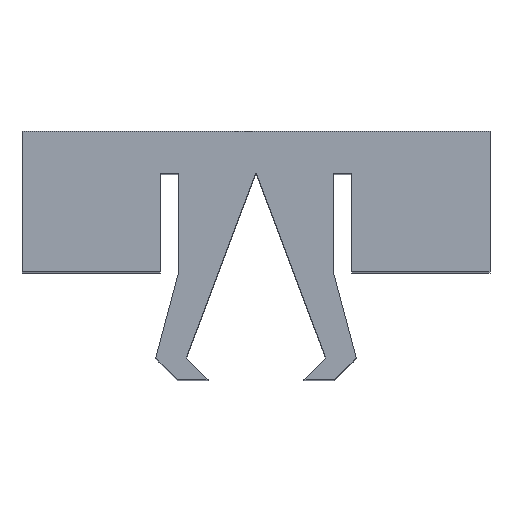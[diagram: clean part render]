
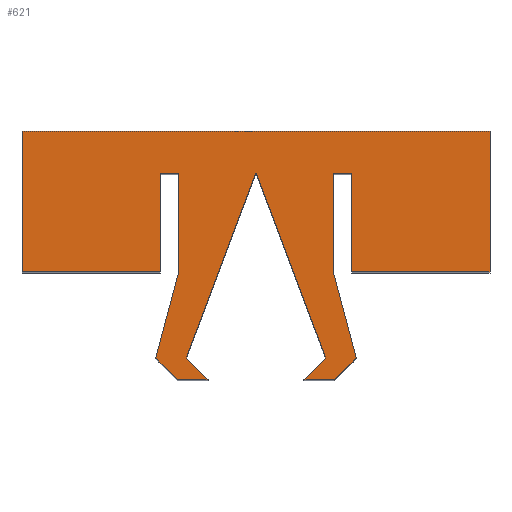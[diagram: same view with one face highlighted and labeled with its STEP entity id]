
A CAD part, top view. The second image highlights one B-rep face of the part: STEP entity #621.
In plain terms, the highlighted planar face has unit normal (0, 0, 1).
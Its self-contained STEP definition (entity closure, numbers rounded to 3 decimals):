
#46=PLANE('',#656);
#77=FACE_OUTER_BOUND('',#110,.T.);
#110=EDGE_LOOP('',(#568,#569,#570,#571,#572,#573,#574,#575,#576,#577,#578,
#579,#580,#581,#582,#583,#584,#585,#586,#587,#588,#589));
#126=LINE('',#847,#209);
#129=LINE('',#853,#212);
#140=LINE('',#874,#223);
#150=LINE('',#896,#233);
#157=LINE('',#909,#240);
#159=LINE('',#913,#242);
#161=LINE('',#917,#244);
#165=LINE('',#925,#248);
#172=LINE('',#937,#255);
#173=LINE('',#940,#256);
#175=LINE('',#944,#258);
#177=LINE('',#947,#260);
#178=LINE('',#950,#261);
#180=LINE('',#953,#263);
#182=LINE('',#957,#265);
#185=LINE('',#963,#268);
#188=LINE('',#969,#271);
#189=LINE('',#971,#272);
#190=LINE('',#973,#273);
#191=LINE('',#975,#274);
#192=LINE('',#977,#275);
#193=LINE('',#979,#276);
#209=VECTOR('',#690,10.);
#212=VECTOR('',#695,10.);
#223=VECTOR('',#712,10.);
#233=VECTOR('',#726,10.);
#240=VECTOR('',#737,10.);
#242=VECTOR('',#741,10.);
#244=VECTOR('',#743,10.);
#248=VECTOR('',#747,10.);
#255=VECTOR('',#758,10.);
#256=VECTOR('',#761,10.);
#258=VECTOR('',#765,10.);
#260=VECTOR('',#769,10.);
#261=VECTOR('',#772,10.);
#263=VECTOR('',#776,10.);
#265=VECTOR('',#780,10.);
#268=VECTOR('',#785,10.);
#271=VECTOR('',#790,10.);
#272=VECTOR('',#793,10.);
#273=VECTOR('',#796,10.);
#274=VECTOR('',#799,10.);
#275=VECTOR('',#802,10.);
#276=VECTOR('',#805,10.);
#292=VERTEX_POINT('',#844);
#293=VERTEX_POINT('',#846);
#294=VERTEX_POINT('',#850);
#295=VERTEX_POINT('',#852);
#302=VERTEX_POINT('',#872);
#311=VERTEX_POINT('',#893);
#312=VERTEX_POINT('',#895);
#316=VERTEX_POINT('',#907);
#317=VERTEX_POINT('',#911);
#318=VERTEX_POINT('',#914);
#319=VERTEX_POINT('',#916);
#322=VERTEX_POINT('',#922);
#323=VERTEX_POINT('',#924);
#326=VERTEX_POINT('',#935);
#327=VERTEX_POINT('',#939);
#328=VERTEX_POINT('',#943);
#329=VERTEX_POINT('',#949);
#330=VERTEX_POINT('',#955);
#331=VERTEX_POINT('',#959);
#332=VERTEX_POINT('',#961);
#333=VERTEX_POINT('',#965);
#334=VERTEX_POINT('',#967);
#352=EDGE_CURVE('',#293,#292,#126,.T.);
#355=EDGE_CURVE('',#295,#294,#129,.T.);
#366=EDGE_CURVE('',#292,#302,#140,.T.);
#376=EDGE_CURVE('',#312,#311,#150,.T.);
#383=EDGE_CURVE('',#294,#316,#157,.T.);
#385=EDGE_CURVE('',#311,#317,#159,.T.);
#387=EDGE_CURVE('',#319,#318,#161,.T.);
#391=EDGE_CURVE('',#323,#322,#165,.T.);
#398=EDGE_CURVE('',#317,#326,#172,.T.);
#399=EDGE_CURVE('',#327,#295,#173,.T.);
#401=EDGE_CURVE('',#328,#327,#175,.T.);
#403=EDGE_CURVE('',#322,#328,#177,.T.);
#404=EDGE_CURVE('',#329,#323,#178,.T.);
#406=EDGE_CURVE('',#316,#319,#180,.T.);
#408=EDGE_CURVE('',#318,#330,#182,.T.);
#411=EDGE_CURVE('',#331,#332,#185,.T.);
#414=EDGE_CURVE('',#333,#334,#188,.T.);
#415=EDGE_CURVE('',#302,#329,#189,.T.);
#416=EDGE_CURVE('',#326,#293,#190,.T.);
#417=EDGE_CURVE('',#312,#332,#191,.T.);
#418=EDGE_CURVE('',#331,#334,#192,.T.);
#419=EDGE_CURVE('',#330,#333,#193,.T.);
#568=ORIENTED_EDGE('',*,*,#391,.T.);
#569=ORIENTED_EDGE('',*,*,#403,.T.);
#570=ORIENTED_EDGE('',*,*,#401,.T.);
#571=ORIENTED_EDGE('',*,*,#399,.T.);
#572=ORIENTED_EDGE('',*,*,#355,.T.);
#573=ORIENTED_EDGE('',*,*,#383,.T.);
#574=ORIENTED_EDGE('',*,*,#406,.T.);
#575=ORIENTED_EDGE('',*,*,#387,.T.);
#576=ORIENTED_EDGE('',*,*,#408,.T.);
#577=ORIENTED_EDGE('',*,*,#419,.T.);
#578=ORIENTED_EDGE('',*,*,#414,.T.);
#579=ORIENTED_EDGE('',*,*,#418,.F.);
#580=ORIENTED_EDGE('',*,*,#411,.T.);
#581=ORIENTED_EDGE('',*,*,#417,.F.);
#582=ORIENTED_EDGE('',*,*,#376,.T.);
#583=ORIENTED_EDGE('',*,*,#385,.T.);
#584=ORIENTED_EDGE('',*,*,#398,.T.);
#585=ORIENTED_EDGE('',*,*,#416,.T.);
#586=ORIENTED_EDGE('',*,*,#352,.T.);
#587=ORIENTED_EDGE('',*,*,#366,.T.);
#588=ORIENTED_EDGE('',*,*,#415,.T.);
#589=ORIENTED_EDGE('',*,*,#404,.T.);
#621=ADVANCED_FACE('',(#77),#46,.T.);
#656=AXIS2_PLACEMENT_3D('',#980,#806,#807);
#690=DIRECTION('',(0.707,-0.707,0.));
#695=DIRECTION('',(0.707,0.707,0.));
#712=DIRECTION('',(1.,0.,0.));
#726=DIRECTION('',(0.,1.,0.));
#737=DIRECTION('',(-0.259,0.966,0.));
#741=DIRECTION('',(1.,0.,0.));
#743=DIRECTION('',(1.,0.,0.));
#747=DIRECTION('',(1.,0.,0.));
#758=DIRECTION('',(0.,-1.,0.));
#761=DIRECTION('',(1.,0.,0.));
#765=DIRECTION('',(-0.707,-0.707,0.));
#769=DIRECTION('',(0.351,-0.936,0.));
#772=DIRECTION('',(0.351,0.936,0.));
#776=DIRECTION('',(0.,1.,0.));
#780=DIRECTION('',(0.,-1.,0.));
#785=DIRECTION('',(0.,-1.,0.));
#790=DIRECTION('',(0.,1.,0.));
#793=DIRECTION('',(-0.707,0.707,0.));
#796=DIRECTION('',(-0.259,-0.966,0.));
#799=DIRECTION('',(-1.,0.,0.));
#802=DIRECTION('',(1.,0.,0.));
#805=DIRECTION('',(1.,0.,0.));
#806=DIRECTION('center_axis',(0.,0.,1.));
#807=DIRECTION('ref_axis',(1.,0.,0.));
#844=CARTESIAN_POINT('',(-1.675,-2.306,15.));
#846=CARTESIAN_POINT('',(-2.141,-1.84,15.));
#847=CARTESIAN_POINT('',(-1.675,-2.306,15.));
#850=CARTESIAN_POINT('',(2.141,-1.84,15.));
#852=CARTESIAN_POINT('',(1.675,-2.306,15.));
#853=CARTESIAN_POINT('',(2.141,-1.84,15.));
#872=CARTESIAN_POINT('',(-1.025,-2.306,15.));
#874=CARTESIAN_POINT('',(-1.025,-2.306,15.));
#893=CARTESIAN_POINT('',(-2.05,2.1,15.));
#895=CARTESIAN_POINT('',(-2.05,0.,15.));
#896=CARTESIAN_POINT('',(-2.05,2.1,15.));
#907=CARTESIAN_POINT('',(1.648,0.,15.));
#909=CARTESIAN_POINT('',(1.648,0.,15.));
#911=CARTESIAN_POINT('',(-1.648,2.1,15.));
#913=CARTESIAN_POINT('',(-1.648,2.1,15.));
#914=CARTESIAN_POINT('',(2.05,2.1,15.));
#916=CARTESIAN_POINT('',(1.648,2.1,15.));
#917=CARTESIAN_POINT('',(1.648,2.1,15.));
#922=CARTESIAN_POINT('',(0.01,2.1,15.));
#924=CARTESIAN_POINT('',(-0.01,2.1,15.));
#925=CARTESIAN_POINT('',(0.,2.1,15.));
#935=CARTESIAN_POINT('',(-1.648,0.,15.));
#937=CARTESIAN_POINT('',(-1.648,0.,15.));
#939=CARTESIAN_POINT('',(1.025,-2.306,15.));
#940=CARTESIAN_POINT('',(1.675,-2.306,15.));
#943=CARTESIAN_POINT('',(1.488,-1.842,15.));
#944=CARTESIAN_POINT('',(1.025,-2.306,15.));
#947=CARTESIAN_POINT('',(0.01,2.1,15.));
#949=CARTESIAN_POINT('',(-1.488,-1.842,15.));
#950=CARTESIAN_POINT('',(-0.01,2.1,15.));
#953=CARTESIAN_POINT('',(1.648,2.1,15.));
#955=CARTESIAN_POINT('',(2.05,0.,15.));
#957=CARTESIAN_POINT('',(2.05,0.,15.));
#959=CARTESIAN_POINT('',(-5.,3.,15.));
#961=CARTESIAN_POINT('',(-5.,0.,15.));
#963=CARTESIAN_POINT('',(-5.,0.75,15.));
#965=CARTESIAN_POINT('',(5.,0.,15.));
#967=CARTESIAN_POINT('',(5.,3.,15.));
#969=CARTESIAN_POINT('',(5.,2.25,15.));
#971=CARTESIAN_POINT('',(-1.488,-1.842,15.));
#973=CARTESIAN_POINT('',(-2.141,-1.84,15.));
#975=CARTESIAN_POINT('',(-2.25,0.,15.));
#977=CARTESIAN_POINT('',(2.25,3.,15.));
#979=CARTESIAN_POINT('',(1.7,0.,15.));
#980=CARTESIAN_POINT('Origin',(0.,0.347,15.));
